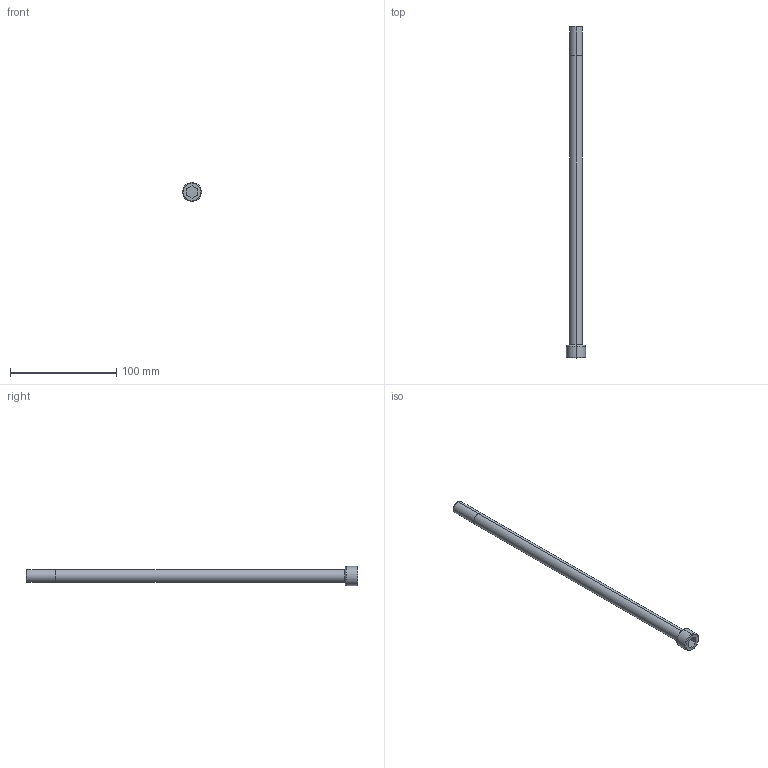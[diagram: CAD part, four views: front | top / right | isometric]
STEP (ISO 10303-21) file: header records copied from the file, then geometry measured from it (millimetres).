
FILE_DESCRIPTION (( 'STEP AP214' ), '1' );
FILE_NAME ('M_12X300.STEP', '2016-03-08T17:58:52', ( '' ), ( '' ), 'SwSTEP 2.0', 'SolidWorks 2014', '' );
FILE_SCHEMA (( 'AUTOMOTIVE_DESIGN' ));
Length unit declared in the file: millimetre
Products named in the file (1): M_12X300
Bounding box: 18 x 312 x 18 mm (x, y, z)
Volume: 36100.5 mm3; surface area: 12774 mm2
Topology: 1 solids, 1 shells, 25 faces, 52 edges, 32 vertices
Faces by surface type: plane 11, torus 6, cylinder 6, cone 2
Entity records: 746 total; most frequent: DIRECTION 130, CARTESIAN_POINT 110, ORIENTED_EDGE 104, EDGE_CURVE 52, AXIS2_PLACEMENT_3D 52, VERTEX_POINT 32, EDGE_LOOP 28, LINE 26
